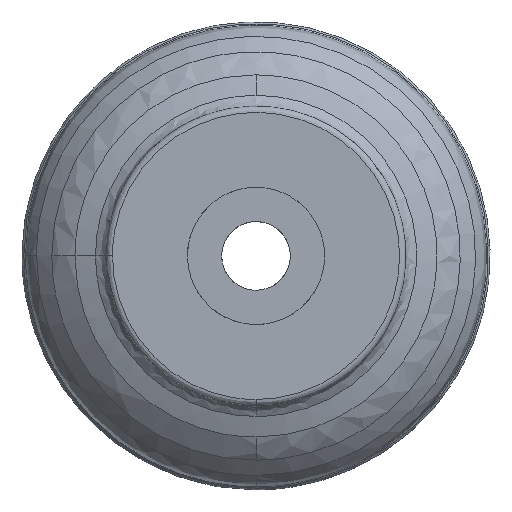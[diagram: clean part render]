
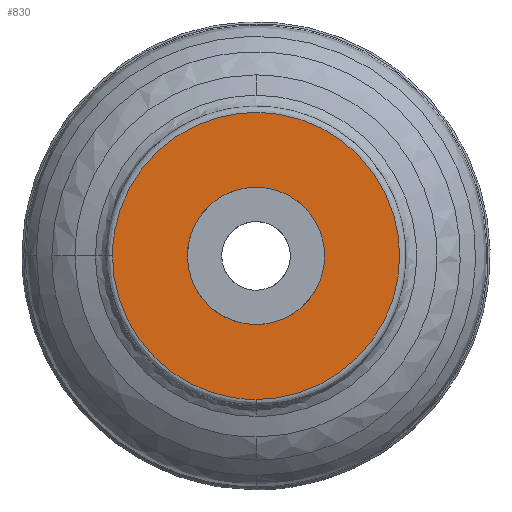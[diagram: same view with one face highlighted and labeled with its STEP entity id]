
A CAD part, left-side view. The second image highlights one B-rep face of the part: STEP entity #830.
In plain terms, the highlighted free-form (B-spline) face has degree [1, 1] with [2, 2] control points.
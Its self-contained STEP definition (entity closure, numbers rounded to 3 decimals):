
#687 = CARTESIAN_POINT ('', (0., 0., -23.));
#688 = VERTEX_POINT ('', #687);
#695 = CARTESIAN_POINT ('', (0., 23., 0.));
#696 = VERTEX_POINT ('', #695);
#697 = CARTESIAN_POINT ('', (0., 23., 0.));
#698 = CARTESIAN_POINT ('', (0., 23., -23.));
#699 = CARTESIAN_POINT ('', (0., 0., -23.));
#700 = (
   BOUNDED_CURVE ()
   B_SPLINE_CURVE (2, (#697, #698, #699), .UNSPECIFIED., .F., .U.)
   B_SPLINE_CURVE_WITH_KNOTS ((3, 3), (4.712, 6.283), .UNSPECIFIED.)
   CURVE ()
   GEOMETRIC_REPRESENTATION_ITEM ()
   RATIONAL_B_SPLINE_CURVE ((1., 0.707, 1.))
   REPRESENTATION_ITEM ('')
);
#701 = EDGE_CURVE ('', #696, #688, #700, .T.);
#760 = CARTESIAN_POINT ('', (0., 0., -23.));
#761 = CARTESIAN_POINT ('', (0., -23., -23.));
#762 = CARTESIAN_POINT ('', (0., -23., 0.));
#763 = CARTESIAN_POINT ('', (0., -23., 23.));
#764 = CARTESIAN_POINT ('', (0., 0., 23.));
#765 = CARTESIAN_POINT ('', (0., 23., 23.));
#766 = CARTESIAN_POINT ('', (0., 23., 0.));
#767 = (
   BOUNDED_CURVE ()
   B_SPLINE_CURVE (2, (#760, #761, #762, #763, #764, #765, #766), .UNSPECIFIED., .F., .U.)
   B_SPLINE_CURVE_WITH_KNOTS ((3, 2, 2, 3), (6.283, 7.854, 9.425, 10.996), .UNSPECIFIED.)
   CURVE ()
   GEOMETRIC_REPRESENTATION_ITEM ()
   RATIONAL_B_SPLINE_CURVE ((1., 0.707, 1., 0.707, 1., 0.707, 1.))
   REPRESENTATION_ITEM ('')
);
#768 = EDGE_CURVE ('', #688, #696, #767, .T.);
#801 = CARTESIAN_POINT ('', (0., 11., 0.));
#802 = VERTEX_POINT ('', #801);
#803 = CARTESIAN_POINT ('', (0., 23., 0.));
#804 = CARTESIAN_POINT ('', (0., 11., 0.));
#805 = B_SPLINE_CURVE_WITH_KNOTS ('', 1, (#803, #804), .UNSPECIFIED., .F., .U., (2, 2), (0., 1.), .UNSPECIFIED.);
#806 = EDGE_CURVE ('', #696, #802, #805, .T.);
#807 = ORIENTED_EDGE ('', *, *, #806, .T.);
#808 = CARTESIAN_POINT ('', (0., 11., 0.));
#809 = CARTESIAN_POINT ('', (0., 11., -11.));
#810 = CARTESIAN_POINT ('', (0., 0., -11.));
#811 = CARTESIAN_POINT ('', (0., -11., -11.));
#812 = CARTESIAN_POINT ('', (0., -11., 0.));
#813 = CARTESIAN_POINT ('', (0., -11., 11.));
#814 = CARTESIAN_POINT ('', (0., 0., 11.));
#815 = CARTESIAN_POINT ('', (0., 11., 11.));
#816 = CARTESIAN_POINT ('', (0., 11., 0.));
#817 = (
   BOUNDED_CURVE ()
   B_SPLINE_CURVE (2, (#808, #809, #810, #811, #812, #813, #814, #815, #816), .UNSPECIFIED., .T., .U.)
   B_SPLINE_CURVE_WITH_KNOTS ((3, 2, 2, 2, 3), (4.712, 6.283, 7.854, 9.425, 10.996), .UNSPECIFIED.)
   CURVE ()
   GEOMETRIC_REPRESENTATION_ITEM ()
   RATIONAL_B_SPLINE_CURVE ((1., 0.707, 1., 0.707, 1., 0.707, 1., 0.707, 1.))
   REPRESENTATION_ITEM ('')
);
#818 = EDGE_CURVE ('', #802, #802, #817, .T.);
#819 = ORIENTED_EDGE ('', *, *, #818, .F.);
#820 = ORIENTED_EDGE ('', *, *, #806, .F.);
#821 = ORIENTED_EDGE ('', *, *, #701, .T.);
#822 = ORIENTED_EDGE ('', *, *, #768, .T.);
#823 = EDGE_LOOP ('', (#807, #819, #820, #821, #822));
#824 = FACE_OUTER_BOUND ('', #823, .T.);
#825 = CARTESIAN_POINT ('', (0., 23.001, 23.001));
#826 = CARTESIAN_POINT ('', (0., -23.001, 23.001));
#827 = CARTESIAN_POINT ('', (0., 23.001, -23.001));
#828 = CARTESIAN_POINT ('', (0., -23.001, -23.001));
#829 = B_SPLINE_SURFACE_WITH_KNOTS ('', 1, 1, ((#825, #826), (#827, #828)), .UNSPECIFIED., .F., .F., .U., (2, 2), (2, 2), (-46.002, 0.), (-46.002, 0.), .UNSPECIFIED.);
#830 = ADVANCED_FACE ('', (#824), #829, .T.);
